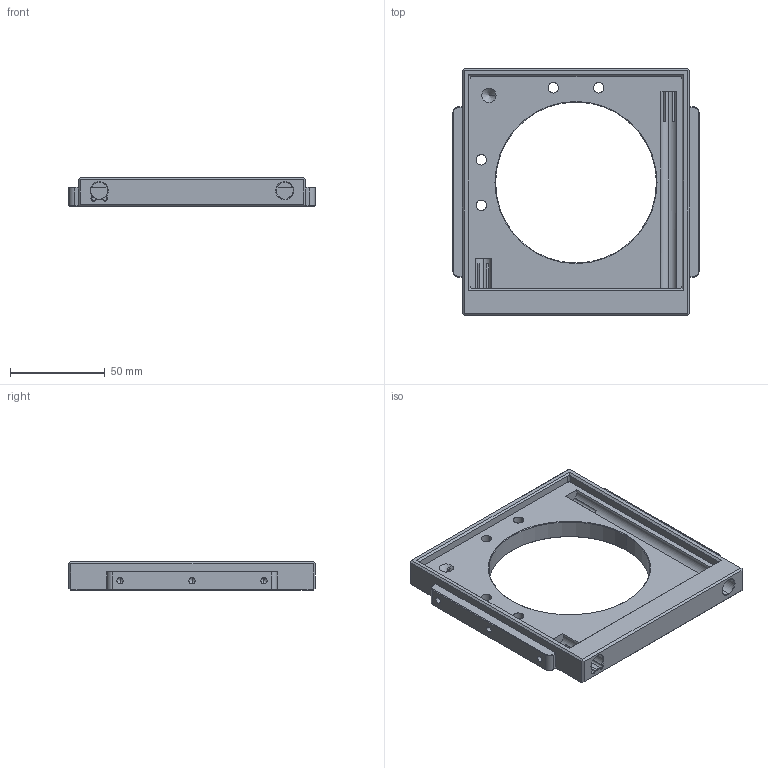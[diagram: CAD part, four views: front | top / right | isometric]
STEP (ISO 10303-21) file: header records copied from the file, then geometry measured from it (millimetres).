
FILE_DESCRIPTION (( 'STEP AP203' ), '1' );
FILE_NAME ('三英寸定板.STEP', '2026-10-12T01:21:47', ( '' ), ( '' ), 'SwSTEP 2.0', 'SolidWorks 2024', '' );
FILE_SCHEMA (( 'CONFIG_CONTROL_DESIGN' ));
Length unit declared in the file: millimetre
Products named in the file (1): 三英寸定板
Bounding box: 130 x 130 x 15 mm (x, y, z)
Volume: 113292.3 mm3; surface area: 36753 mm2
Topology: 1 solids, 1 shells, 182 faces, 483 edges, 291 vertices
Faces by surface type: plane 85, cone 50, cylinder 47
Entity records: 5626 total; most frequent: CARTESIAN_POINT 1027, DIRECTION 967, ORIENTED_EDGE 938, EDGE_CURVE 469, AXIS2_PLACEMENT_3D 343, VERTEX_POINT 291, VECTOR 281, LINE 281
